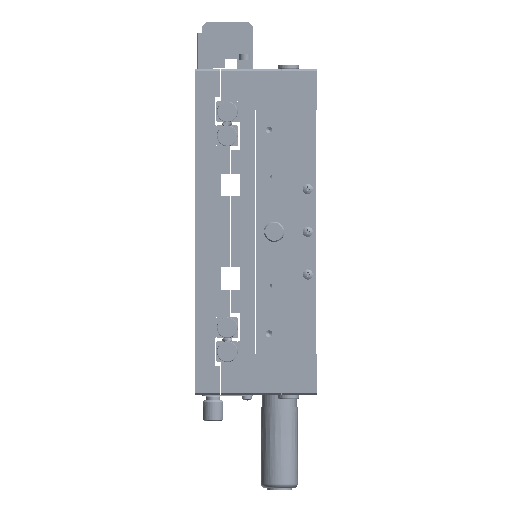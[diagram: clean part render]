
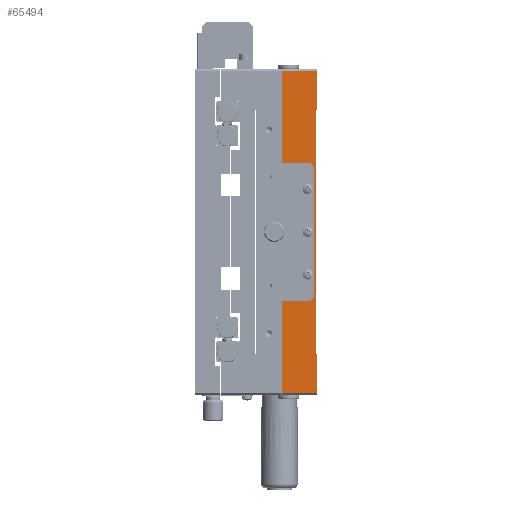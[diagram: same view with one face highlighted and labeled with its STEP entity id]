
A CAD part, left-side view. The second image highlights one B-rep face of the part: STEP entity #65494.
In plain terms, the highlighted planar face has unit normal (-1, 0, 0).
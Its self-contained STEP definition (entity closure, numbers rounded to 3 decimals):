
#252 = DIRECTION ( 'NONE',  ( 0., 0., 1. ) ) ;
#947 = CARTESIAN_POINT ( 'NONE',  ( -2.918, 144.994, 88.427 ) ) ;
#3425 = VERTEX_POINT ( 'NONE', #101595 ) ;
#5927 = CIRCLE ( 'NONE', #54764, 1.025 ) ;
#9387 = VECTOR ( 'NONE', #252, 1000. ) ;
#13253 = DIRECTION ( 'NONE',  ( 0., -1., 0. ) ) ;
#13521 = DIRECTION ( 'NONE',  ( -1., 0., 0. ) ) ;
#16771 = VERTEX_POINT ( 'NONE', #190974 ) ;
#17328 = VERTEX_POINT ( 'NONE', #224995 ) ;
#35421 = LINE ( 'NONE', #85976, #186307 ) ;
#46222 = LINE ( 'NONE', #120202, #70289 ) ;
#50725 = FACE_OUTER_BOUND ( 'NONE', #106860, .T. ) ;
#53030 = DIRECTION ( 'NONE',  ( 0., 0., 1. ) ) ;
#53048 = FACE_BOUND ( 'NONE', #158296, .T. ) ;
#54005 = VERTEX_POINT ( 'NONE', #178382 ) ;
#54197 = DIRECTION ( 'NONE',  ( 0., 0., -1. ) ) ;
#54764 = AXIS2_PLACEMENT_3D ( 'NONE', #196449, #142367, #53030 ) ;
#55734 = EDGE_LOOP ( 'NONE', ( #185504 ) ) ;
#56632 = CARTESIAN_POINT ( 'NONE',  ( -2.918, 140.394, 189.427 ) ) ;
#60717 = CARTESIAN_POINT ( 'NONE',  ( -2.918, 144.994, 89.452 ) ) ;
#65494 = ADVANCED_FACE ( 'NONE', ( #50725, #53048, #229396, #69539 ), #122433, .F. ) ;
#67466 = EDGE_CURVE ( 'NONE', #3425, #17328, #46222, .T. ) ;
#68243 = VECTOR ( 'NONE', #135211, 1000. ) ;
#69539 = FACE_BOUND ( 'NONE', #208650, .T. ) ;
#70289 = VECTOR ( 'NONE', #13253, 1000. ) ;
#73130 = EDGE_CURVE ( 'NONE', #17328, #203215, #98069, .T. ) ;
#76610 = CARTESIAN_POINT ( 'NONE',  ( -2.918, 144.994, 110.452 ) ) ;
#78610 = EDGE_CURVE ( 'NONE', #201216, #201216, #134434, .T. ) ;
#79249 = CARTESIAN_POINT ( 'NONE',  ( -2.918, 140.394, 189.427 ) ) ;
#79879 = LINE ( 'NONE', #202167, #107313 ) ;
#81739 = ORIENTED_EDGE ( 'NONE', *, *, #178671, .T. ) ;
#85976 = CARTESIAN_POINT ( 'NONE',  ( -2.918, 140.694, 189.427 ) ) ;
#95989 = VERTEX_POINT ( 'NONE', #151210 ) ;
#98069 = LINE ( 'NONE', #79249, #137281 ) ;
#99987 = AXIS2_PLACEMENT_3D ( 'NONE', #127055, #198757, #54197 ) ;
#100045 = ORIENTED_EDGE ( 'NONE', *, *, #67466, .T. ) ;
#101595 = CARTESIAN_POINT ( 'NONE',  ( -2.918, 140.694, 169.427 ) ) ;
#102253 = AXIS2_PLACEMENT_3D ( 'NONE', #947, #196126, #211413 ) ;
#106860 = EDGE_LOOP ( 'NONE', ( #144486, #192818, #100045, #200749, #205720, #146432, #222774, #81739 ) ) ;
#107313 = VECTOR ( 'NONE', #182208, 1000. ) ;
#111034 = EDGE_CURVE ( 'NONE', #203215, #136067, #138660, .T. ) ;
#119273 = CARTESIAN_POINT ( 'NONE',  ( -2.918, 140.394, 188.427 ) ) ;
#119867 = CARTESIAN_POINT ( 'NONE',  ( -2.918, 157.394, 188.427 ) ) ;
#120202 = CARTESIAN_POINT ( 'NONE',  ( -2.918, 140.694, 169.427 ) ) ;
#122433 = PLANE ( 'NONE',  #99987 ) ;
#125710 = EDGE_CURVE ( 'NONE', #54005, #136067, #79879, .T. ) ;
#126605 = EDGE_CURVE ( 'NONE', #95989, #95989, #5927, .T. ) ;
#126606 = EDGE_CURVE ( 'NONE', #3425, #210298, #35421, .T. ) ;
#127055 = CARTESIAN_POINT ( 'NONE',  ( -2.918, 157.394, 189.427 ) ) ;
#128267 = ORIENTED_EDGE ( 'NONE', *, *, #126605, .F. ) ;
#134434 = CIRCLE ( 'NONE', #198178, 1.025 ) ;
#135183 = CARTESIAN_POINT ( 'NONE',  ( -2.918, 140.694, 49.427 ) ) ;
#135211 = DIRECTION ( 'NONE',  ( 0., 1., 0. ) ) ;
#135370 = DIRECTION ( 'NONE',  ( 0., -1., 0. ) ) ;
#135899 = EDGE_CURVE ( 'NONE', #210298, #181222, #148167, .T. ) ;
#135932 = VERTEX_POINT ( 'NONE', #60717 ) ;
#136067 = VERTEX_POINT ( 'NONE', #223066 ) ;
#137281 = VECTOR ( 'NONE', #201556, 1000. ) ;
#138660 = LINE ( 'NONE', #119867, #68243 ) ;
#142367 = DIRECTION ( 'NONE',  ( -1., 0., 0. ) ) ;
#144486 = ORIENTED_EDGE ( 'NONE', *, *, #135899, .F. ) ;
#146432 = ORIENTED_EDGE ( 'NONE', *, *, #125710, .F. ) ;
#147874 = CARTESIAN_POINT ( 'NONE',  ( -2.918, 140.394, 49.427 ) ) ;
#148167 = LINE ( 'NONE', #135183, #229564 ) ;
#151210 = CARTESIAN_POINT ( 'NONE',  ( -2.918, 144.994, 131.452 ) ) ;
#155121 = DIRECTION ( 'NONE',  ( 0., -1., 0. ) ) ;
#155754 = DIRECTION ( 'NONE',  ( 0., 0., 1. ) ) ;
#156923 = CARTESIAN_POINT ( 'NONE',  ( -2.918, 144.994, 109.427 ) ) ;
#158296 = EDGE_LOOP ( 'NONE', ( #128267 ) ) ;
#168875 = EDGE_CURVE ( 'NONE', #54005, #16771, #174101, .T. ) ;
#171806 = CARTESIAN_POINT ( 'NONE',  ( -2.918, 157.394, 30.427 ) ) ;
#173128 = ORIENTED_EDGE ( 'NONE', *, *, #224598, .F. ) ;
#174101 = LINE ( 'NONE', #171806, #207379 ) ;
#178382 = CARTESIAN_POINT ( 'NONE',  ( -2.918, 157.394, 30.427 ) ) ;
#178671 = EDGE_CURVE ( 'NONE', #16771, #181222, #217684, .T. ) ;
#181222 = VERTEX_POINT ( 'NONE', #147874 ) ;
#182208 = DIRECTION ( 'NONE',  ( 0., 0., 1. ) ) ;
#184964 = CIRCLE ( 'NONE', #102253, 1.025 ) ;
#185504 = ORIENTED_EDGE ( 'NONE', *, *, #78610, .F. ) ;
#186307 = VECTOR ( 'NONE', #227050, 1000. ) ;
#190974 = CARTESIAN_POINT ( 'NONE',  ( -2.918, 140.394, 30.427 ) ) ;
#192818 = ORIENTED_EDGE ( 'NONE', *, *, #126606, .F. ) ;
#196126 = DIRECTION ( 'NONE',  ( -1., 0., 0. ) ) ;
#196449 = CARTESIAN_POINT ( 'NONE',  ( -2.918, 144.994, 130.427 ) ) ;
#198178 = AXIS2_PLACEMENT_3D ( 'NONE', #156923, #13521, #155754 ) ;
#198757 = DIRECTION ( 'NONE',  ( 1., 0., 0. ) ) ;
#200749 = ORIENTED_EDGE ( 'NONE', *, *, #73130, .T. ) ;
#201216 = VERTEX_POINT ( 'NONE', #76610 ) ;
#201556 = DIRECTION ( 'NONE',  ( 0., 0., 1. ) ) ;
#202167 = CARTESIAN_POINT ( 'NONE',  ( -2.918, 157.394, 189.427 ) ) ;
#203215 = VERTEX_POINT ( 'NONE', #119273 ) ;
#205720 = ORIENTED_EDGE ( 'NONE', *, *, #111034, .T. ) ;
#207379 = VECTOR ( 'NONE', #135370, 1000. ) ;
#208086 = CARTESIAN_POINT ( 'NONE',  ( -2.918, 140.694, 49.427 ) ) ;
#208650 = EDGE_LOOP ( 'NONE', ( #173128 ) ) ;
#210298 = VERTEX_POINT ( 'NONE', #208086 ) ;
#211413 = DIRECTION ( 'NONE',  ( 0., 0., 1. ) ) ;
#217684 = LINE ( 'NONE', #56632, #9387 ) ;
#222774 = ORIENTED_EDGE ( 'NONE', *, *, #168875, .T. ) ;
#223066 = CARTESIAN_POINT ( 'NONE',  ( -2.918, 157.394, 188.427 ) ) ;
#224598 = EDGE_CURVE ( 'NONE', #135932, #135932, #184964, .T. ) ;
#224995 = CARTESIAN_POINT ( 'NONE',  ( -2.918, 140.394, 169.427 ) ) ;
#227050 = DIRECTION ( 'NONE',  ( 0., 0., -1. ) ) ;
#229396 = FACE_BOUND ( 'NONE', #55734, .T. ) ;
#229564 = VECTOR ( 'NONE', #155121, 1000. ) ;
